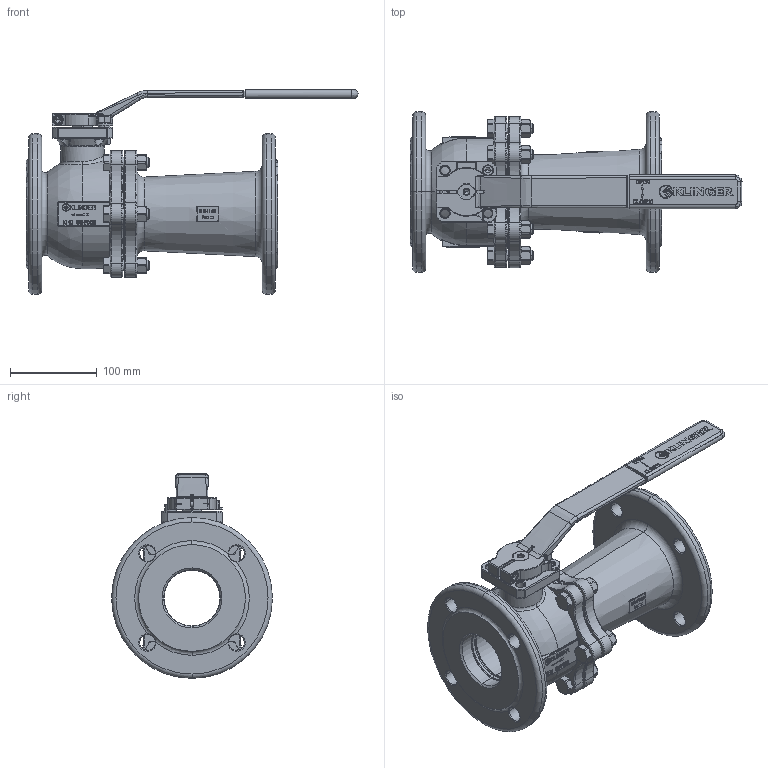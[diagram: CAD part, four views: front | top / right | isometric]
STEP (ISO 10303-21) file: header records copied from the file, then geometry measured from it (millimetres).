
FILE_DESCRIPTION((''),'2;1');
FILE_NAME('KHEFK065VFL065P016PKK','2015-08-10T',('mahrhauserh'),('RAND'),'PRO/ENGINEER BY PARAMETRIC TECHNOLOGY CORPORATION, 2013410','PRO/ENGINEER BY PARAMETRIC TECHNOLOGY CORPORATION, 2013410','');
FILE_SCHEMA(('CONFIG_CONTROL_DESIGN'));
Products named in the file (1): KHEFK065VFL065P016PKK
Bounding box: 382 x 185 x 235.55 mm (x, y, z)
Volume: 2398728.7 mm3; surface area: 455549.9 mm2
Topology: 1 solids, 1 shells, 3506 faces, 9196 edges, 5814 vertices
Faces by surface type: plane 2088, cylinder 520, torus 330, bspline 274, cone 259, sphere 35
Entity records: 133852 total; most frequent: CARTESIAN_POINT 48601, ORIENTED_EDGE 18380, DIRECTION 16935, EDGE_CURVE 9190, VECTOR 6097, LINE 6097, VERTEX_POINT 5814, AXIS2_PLACEMENT_3D 5419
